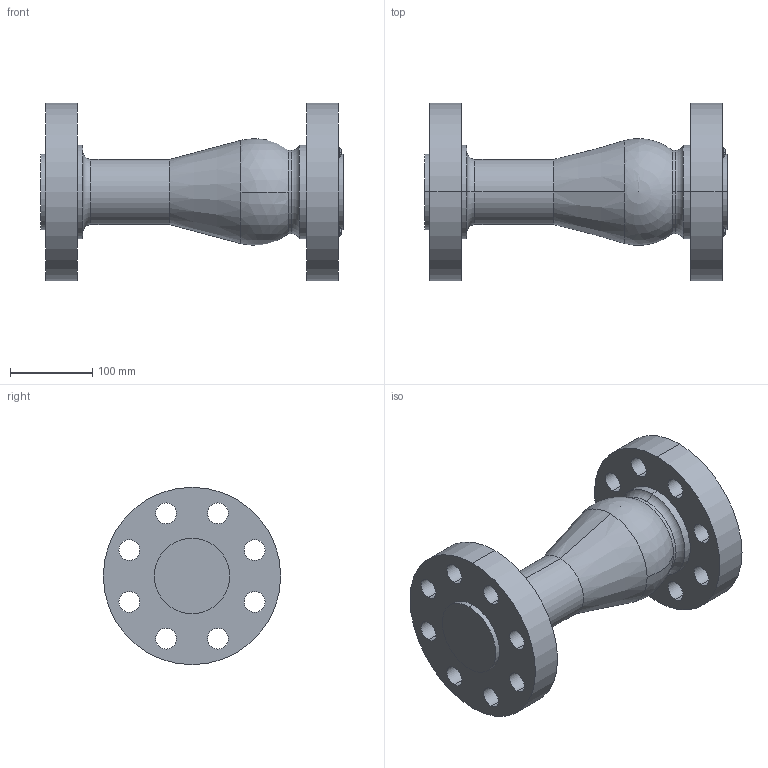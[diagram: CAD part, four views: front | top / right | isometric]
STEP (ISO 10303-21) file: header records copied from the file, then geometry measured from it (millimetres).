
FILE_DESCRIPTION (( 'STEP AP203' ), '1' );
FILE_NAME ('PDC 2-900 1500.step', '2016-07-11T18:01:53', ( '' ), ( '' ), 'SwSTEP 2.0', 'SolidWorks 2015', '' );
FILE_SCHEMA (( 'CONFIG_CONTROL_DESIGN' ));
Length unit declared in the file: inch
Products named in the file (1): PDC 2-900 1500
Bounding box: 368.3 x 215.9 x 215.9 mm (x, y, z)
Volume: 4774506.3 mm3; surface area: 309109.2 mm2
Topology: 1 solids, 1 shells, 101 faces, 263 edges, 171 vertices
Faces by surface type: cylinder 58, plane 25, sphere 10, cone 4, torus 4
Entity records: 3291 total; most frequent: DIRECTION 632, CARTESIAN_POINT 534, ORIENTED_EDGE 516, AXIS2_PLACEMENT_3D 274, EDGE_CURVE 258, CIRCLE 172, VERTEX_POINT 168, EDGE_LOOP 142
